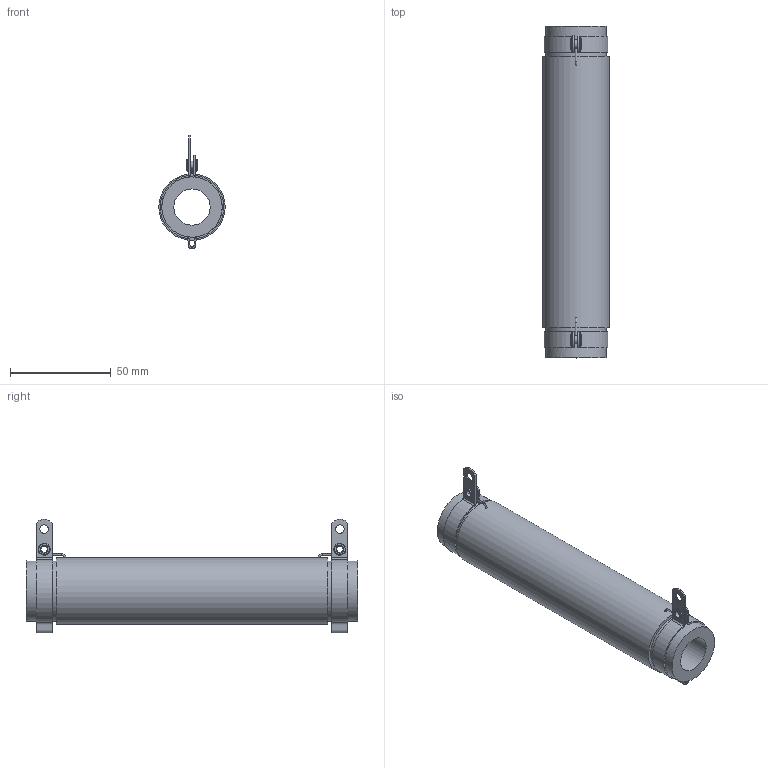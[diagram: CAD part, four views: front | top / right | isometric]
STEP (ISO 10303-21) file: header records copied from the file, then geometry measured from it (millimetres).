
FILE_DESCRIPTION(/* description */ (''),/* implementation_level */ '2;1');
FILE_NAME(/* name */ 'C:\_Vault\Dati\CATALOGO\RC-RS\TC\RS00160.stp',/* time_stamp */ '2014-01-22T17:39:35+01:00',/* author */ ('stefano'),/* organization */ (''),/* preprocessor_version */ 'ST-DEVELOPER v15.2',/* originating_system */ 'Autodesk Inventor 2014',/* authorisation */ '');
FILE_SCHEMA (('AUTOMOTIVE_DESIGN { 1 0 10303 214 3 1 1 }'));
Length unit declared in the file: millimetre
Products named in the file (1): RS00160
Bounding box: 33 x 165 x 56.36 mm (x, y, z)
Volume: 96387.9 mm3; surface area: 29539 mm2
Topology: 1 solids, 5 shells, 88 faces, 213 edges, 141 vertices
Faces by surface type: cylinder 38, plane 32, torus 10, bspline 8
Full cylindrical faces by diameter (mm): 0.4 x2, 0.8 x4, 3.2 x2, 4.2 x4, 6 x4, 18 x1, 30 x2, 33 x1
Entity records: 2983 total; most frequent: CARTESIAN_POINT 927, DIRECTION 398, ORIENTED_EDGE 340, AXIS2_PLACEMENT_3D 171, EDGE_CURVE 170, EDGE_LOOP 148, VERTEX_POINT 130, CIRCLE 90
